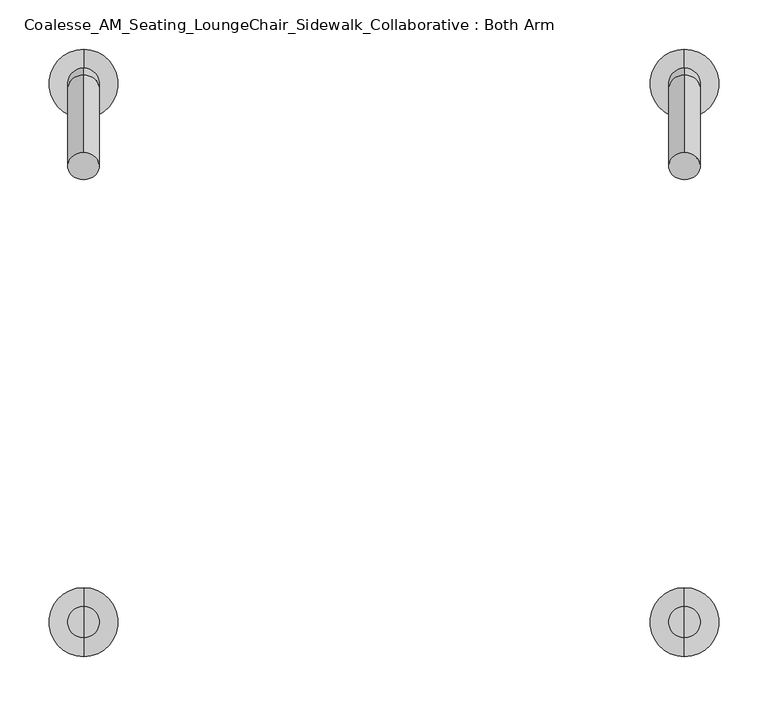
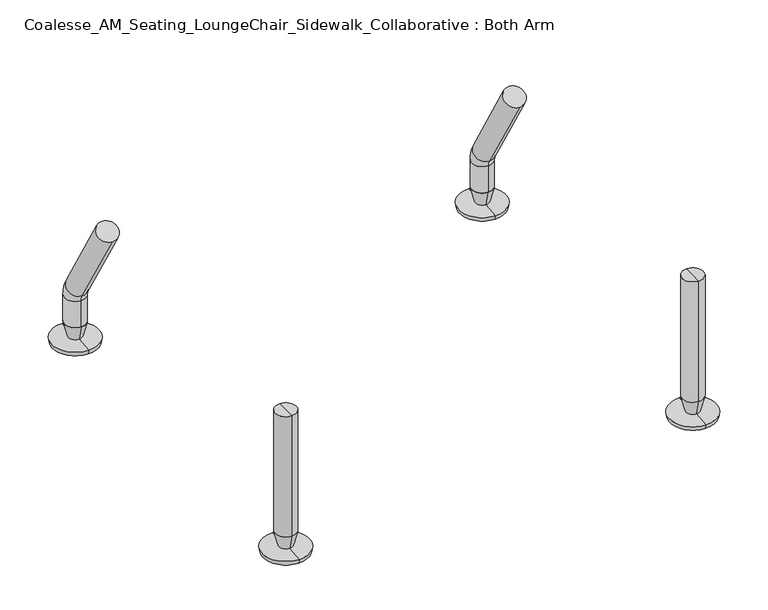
"""IFC4 building model written with IfcOpenShell, lengths in millimetres: furniture geometry, Coalesse_AM_Seating_LoungeChair_Sidewalk_Collaborative : Both Arm."""

from ifc_helpers import new_model, si_unit, point, frame, origin, place, context, project, spatial, polyline, circle_curve, ellipse_curve, trimmed, source, transform, mapped, element, save
from ifc_brep_helpers import plane_surface, cylinder_surface, revolved_surface, advanced_brep


def coalesse_am_seating_loungechair_sidewalk_collaborative_both_0cfa3d09(model_context):
    return source(origin(), model_context, "Body", "AdvancedBrep", [
        advanced_brep(
        [(770.5801534, 450.6597627, 0.0), (770.5801534, 484.5264293, 0.0), (770.5801534, 416.793096, 0.0), (770.5801534, 434.7847627, 31.75), (770.5801534, 466.5347627, 31.75), (770.5801534, 450.6597627, 31.75), (770.5801534, 440.7764092, 8.5001207), (770.5801534, 460.5431161, 8.5001207), (770.5801534, 415.7347627, 6.35), (770.5801534, 485.5847627, 6.35)],
        [
            (0, 1),
            (1, 2, circle_curve(frame((770.5801534, 450.6597627, 0.0), z_axis=(0.0, 0.0, -1.0), x_axis=(0.0, 1.0, 0.0)), 33.8666667)),
            (2, 0),
            (2, 1, circle_curve(frame((770.5801534, 450.6597627, 0.0), z_axis=(0.0, 0.0, -1.0), x_axis=(0.0, 1.0, 0.0)), 33.8666667)),
            (3, 4, circle_curve(frame((770.5801534, 450.6597627, 31.75), z_axis=(0.0, 0.0, 1.0), x_axis=(0.0, 1.0, 0.0)), 15.875)),
            (4, 5),
            (5, 3),
            (4, 3, circle_curve(frame((770.5801534, 450.6597627, 31.75), z_axis=(0.0, 0.0, 1.0), x_axis=(0.0, 1.0, 0.0)), 15.875)),
            (6, 7, circle_curve(frame((770.5801534, 450.6597627, 8.5001207), z_axis=(0.0, 0.0, 1.0), x_axis=(0.0, 1.0, 0.0)), 9.8833534)),
            (7, 4),
            (3, 6),
            (7, 6, circle_curve(frame((770.5801534, 450.6597627, 8.5001207), z_axis=(0.0, 0.0, 1.0), x_axis=(0.0, 1.0, 0.0)), 9.8833534)),
            (8, 9, circle_curve(frame((770.5801534, 450.6597627, 6.35), z_axis=(0.0, 0.0, 1.0), x_axis=(0.0, 1.0, 0.0)), 34.925)),
            (9, 7),
            (6, 8),
            (9, 8, circle_curve(frame((770.5801534, 450.6597627, 6.35), z_axis=(0.0, 0.0, 1.0), x_axis=(0.0, 1.0, 0.0)), 34.925)),
            (1, 9),
            (8, 2),
        ],
        [
            plane_surface(frame((770.5801534, 450.6597627, 0.0), z_axis=(0.0, 0.0, -1.0), x_axis=(0.0, 1.0, 0.0))),
            plane_surface(frame((770.5801534, 450.6597627, 31.75), z_axis=(0.0, 0.0, 1.0), x_axis=(0.0, 1.0, 0.0))),
            revolved_surface(polyline([(770.5801534, 466.5347627, 31.75), (770.5801534, 460.5431161, 8.5001207)]), (770.5801534, 450.6597627, -31.75), (0.0, 0.0, -1.0)),
            revolved_surface(polyline([(770.5801534, 460.5431161, 8.5001207), (770.5801534, 485.5847627, 6.35)]), (770.5801534, 450.6597627, -31.75), (0.0, 0.0, -1.0)),
            revolved_surface(polyline([(770.5801534, 485.5847627, 6.35), (770.5801534, 484.5264293, 0.0)]), (770.5801534, 450.6597627, -31.75), (0.0, 0.0, -1.0)),
        ],
        [
            (0, [[1, 2, 3]]),
            (0, [[-3, 4, -1]]),
            (1, [[5, 6, 7]]),
            (1, [[8, -7, -6]]),
            (2, [[9, 10, -5, 11]]),
            (2, [[12, -11, -8, -10]]),
            (3, [[13, 14, -9, 15]]),
            (3, [[16, -15, -12, -14]]),
            (4, [[-2, 17, -13, 18]]),
            (4, [[-4, -18, -16, -17]]),
        ],
    ),
        advanced_brep(
        [(770.5801534, 434.7847627, 31.75), (770.5801534, 466.5347627, 31.75), (770.5801534, 434.7847627, 73.4363994), (770.5801534, 466.5347627, 73.4363994), (770.5801534, 459.6905974, 98.4722611), (770.5801534, 432.3561879, 82.3200923), (770.5801534, 353.4225241, 215.8999916), (770.5801534, 380.7569336, 232.0521604)],
        [
            (0, 1, circle_curve(frame((770.5801534, 450.6597627, 31.75), z_axis=(0.0, 0.0, -1.0), x_axis=(0.0, 1.0, 0.0)), 15.875)),
            (1, 0, circle_curve(frame((770.5801534, 450.6597627, 31.75), z_axis=(0.0, 0.0, -1.0), x_axis=(0.0, 1.0, 0.0)), 15.875)),
            (0, 2),
            (2, 3, circle_curve(frame((770.5801534, 450.6597627, 73.4363994), z_axis=(0.0, 0.0, -1.0), x_axis=(0.0, 1.0, 0.0)), 15.875)),
            (3, 1),
            (3, 2, circle_curve(frame((770.5801534, 450.6597627, 73.4363994), z_axis=(0.0, 0.0, -1.0), x_axis=(0.0, 1.0, 0.0)), 15.875)),
            (4, 3, circle_curve(frame((770.5801534, 417.3222627, 73.4363994), z_axis=(-1.0, 0.0, 0.0), x_axis=(0.0, 1.0, 0.0)), 49.2125)),
            (2, 5, circle_curve(frame((770.5801534, 417.3222627, 73.4363994), z_axis=(1.0, 0.0, 0.0), x_axis=(0.0, 1.0, 0.0)), 17.4625)),
            (5, 4, circle_curve(frame((770.5801534, 446.0233926, 90.3961767), z_axis=(0.0, 0.5087297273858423, -0.8609262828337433), x_axis=(0.0, 0.8609262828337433, 0.5087297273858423)), 15.875)),
            (4, 5, circle_curve(frame((770.5801534, 446.0233926, 90.3961767), z_axis=(0.0, 0.508729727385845, -0.8609262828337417), x_axis=(0.0, 0.8609262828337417, 0.508729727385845)), 15.875)),
            (6, 7, circle_curve(frame((770.5801534, 367.0897288, 223.976076), z_axis=(0.0, -0.5087297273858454, 0.8609262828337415), x_axis=(0.0, 0.8609262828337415, 0.5087297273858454)), 15.875)),
            (7, 6, circle_curve(frame((770.5801534, 367.0897288, 223.976076), z_axis=(0.0, -0.5087297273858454, 0.8609262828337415), x_axis=(0.0, 0.8609262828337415, 0.5087297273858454)), 15.875)),
            (5, 6),
            (7, 4),
        ],
        [
            plane_surface(frame((770.5801534, 450.6597627, 31.75), z_axis=(0.0, 0.0, -1.0), x_axis=(-1.0, 0.0, 0.0))),
            cylinder_surface(frame((770.5801534, 450.6597627, 31.75), z_axis=(0.0, 0.0, -1.0), x_axis=(0.0, 1.0, 0.0)), 15.875),
            revolved_surface(trimmed(ellipse_curve(frame((770.5801534, 450.6597627, 73.4363994), z_axis=(0.0, 0.0, -1.0), x_axis=(0.0, 1.0, 0.0)), 15.875, 15.875), [point((770.5801534, 434.7847627, 73.4363994))], [point((770.5801534, 466.5347627, 73.4363994))], True, "CARTESIAN"), (770.5801534, 417.3222627, 73.4363994), (1.0, 0.0, 0.0)),
            revolved_surface(trimmed(ellipse_curve(frame((770.5801534, 450.6597627, 73.4363994), z_axis=(0.0, 0.0, -1.0), x_axis=(0.0, 1.0, 0.0)), 15.875, 15.875), [point((770.5801534, 466.5347627, 73.4363994))], [point((770.5801534, 434.7847627, 73.4363994))], True, "CARTESIAN"), (770.5801534, 417.3222627, 73.4363994), (1.0, 0.0, 0.0)),
            plane_surface(frame((770.5801534, 367.0897288, 223.976076), z_axis=(0.0, -0.5087297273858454, 0.8609262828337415), x_axis=(-1.0, 0.0, 0.0))),
            cylinder_surface(frame((770.5801534, 446.0233926, 90.3961767), z_axis=(0.0, 0.5087297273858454, -0.8609262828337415), x_axis=(0.0, 0.8609262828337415, 0.5087297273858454)), 15.875),
        ],
        [
            (0, [[1, 2]]),
            (1, [[-1, 3, 4, 5]]),
            (1, [[-2, -5, 6, -3]]),
            (2, [[7, -4, 8, 9]]),
            (3, [[-8, -6, -7, 10]]),
            (4, [[11, 12]]),
            (5, [[-9, 13, -12, 14]]),
            (5, [[-10, -14, -11, -13]]),
        ],
    ),
        advanced_brep(
        [(161.0378055, 415.7347627, 6.35), (161.0378055, 485.5847627, 6.35), (161.0378055, 484.5264293, 0.0), (161.0378055, 416.793096, 0.0), (161.0378055, 440.7764092, 8.5001207), (161.0378055, 460.5431161, 8.5001207), (161.0378055, 434.7847627, 31.75), (161.0378055, 466.5347627, 31.75), (161.0378055, 450.6597627, 31.75), (161.0378055, 450.6597627, 0.0)],
        [
            (0, 1, circle_curve(frame((161.0378055, 450.6597627, 6.35), z_axis=(0.0, 0.0, -1.0), x_axis=(0.0, 1.0, 0.0)), 34.925)),
            (1, 2),
            (2, 3, circle_curve(frame((161.0378055, 450.6597627, 0.0), z_axis=(0.0, 0.0, 1.0), x_axis=(0.0, 1.0, 0.0)), 33.8666667)),
            (3, 0),
            (1, 0, circle_curve(frame((161.0378055, 450.6597627, 6.35), z_axis=(0.0, 0.0, -1.0), x_axis=(0.0, 1.0, 0.0)), 34.925)),
            (3, 2, circle_curve(frame((161.0378055, 450.6597627, 0.0), z_axis=(0.0, 0.0, 1.0), x_axis=(0.0, 1.0, 0.0)), 33.8666667)),
            (4, 5, circle_curve(frame((161.0378055, 450.6597627, 8.5001207), z_axis=(0.0, 0.0, -1.0), x_axis=(0.0, 1.0, 0.0)), 9.8833534)),
            (5, 1),
            (0, 4),
            (5, 4, circle_curve(frame((161.0378055, 450.6597627, 8.5001207), z_axis=(0.0, 0.0, -1.0), x_axis=(0.0, 1.0, 0.0)), 9.8833534)),
            (6, 7, circle_curve(frame((161.0378055, 450.6597627, 31.75), z_axis=(0.0, 0.0, -1.0), x_axis=(0.0, 1.0, 0.0)), 15.875)),
            (7, 5),
            (4, 6),
            (7, 6, circle_curve(frame((161.0378055, 450.6597627, 31.75), z_axis=(0.0, 0.0, -1.0), x_axis=(0.0, 1.0, 0.0)), 15.875)),
            (8, 7),
            (6, 8),
            (2, 9),
            (9, 3),
        ],
        [
            revolved_surface(polyline([(161.0378055, 484.5264293, 0.0), (161.0378055, 485.5847627, 6.35)]), (161.0378055, 450.6597627, -31.75), (0.0, 0.0, 1.0)),
            revolved_surface(polyline([(161.0378055, 485.5847627, 6.35), (161.0378055, 460.5431161, 8.5001207)]), (161.0378055, 450.6597627, -31.75), (0.0, 0.0, 1.0)),
            revolved_surface(polyline([(161.0378055, 460.5431161, 8.5001207), (161.0378055, 466.5347627, 31.75)]), (161.0378055, 450.6597627, -31.75), (0.0, 0.0, 1.0)),
            plane_surface(frame((161.0378055, 450.6597627, 31.75), z_axis=(0.0, 0.0, 1.0), x_axis=(0.0, 1.0, 0.0))),
            plane_surface(frame((161.0378055, 450.6597627, 0.0), z_axis=(0.0, 0.0, -1.0), x_axis=(0.0, 1.0, 0.0))),
        ],
        [
            (0, [[1, 2, 3, 4]]),
            (0, [[5, -4, 6, -2]]),
            (1, [[7, 8, -1, 9]]),
            (1, [[10, -9, -5, -8]]),
            (2, [[11, 12, -7, 13]]),
            (2, [[14, -13, -10, -12]]),
            (3, [[15, -11, 16]]),
            (3, [[-16, -14, -15]]),
            (4, [[-3, 17, 18]]),
            (4, [[-6, -18, -17]]),
        ],
    ),
        advanced_brep(
        [(161.0378055, 466.5347627, 31.75), (161.0378055, 434.7847627, 31.75), (161.0378055, 466.5347627, 73.4363994), (161.0378055, 434.7847627, 73.4363994), (161.0378055, 432.3561879, 82.3200923), (161.0378055, 459.6905974, 98.4722611), (161.0378055, 380.7569336, 232.0521604), (161.0378055, 353.4225241, 215.8999916)],
        [
            (0, 1, circle_curve(frame((161.0378055, 450.6597627, 31.75), z_axis=(0.0, 0.0, -1.0), x_axis=(0.0, -1.0, 0.0)), 15.875)),
            (1, 0, circle_curve(frame((161.0378055, 450.6597627, 31.75), z_axis=(0.0, 0.0, -1.0), x_axis=(0.0, -1.0, 0.0)), 15.875)),
            (0, 2),
            (2, 3, circle_curve(frame((161.0378055, 450.6597627, 73.4363994), z_axis=(0.0, 0.0, -1.0), x_axis=(0.0, -1.0, 0.0)), 15.875)),
            (3, 1),
            (3, 2, circle_curve(frame((161.0378055, 450.6597627, 73.4363994), z_axis=(0.0, 0.0, -1.0), x_axis=(0.0, -1.0, 0.0)), 15.875)),
            (4, 3, circle_curve(frame((161.0378055, 417.3222627, 73.4363994), z_axis=(-1.0, 0.0, 0.0), x_axis=(0.0, 1.0, 0.0)), 17.4625)),
            (2, 5, circle_curve(frame((161.0378055, 417.3222627, 73.4363994), z_axis=(1.0, 0.0, 0.0), x_axis=(0.0, 1.0, 0.0)), 49.2125)),
            (5, 4, circle_curve(frame((161.0378055, 446.0233926, 90.3961767), z_axis=(0.0, 0.5087297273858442, -0.8609262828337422), x_axis=(0.0, -0.8609262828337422, -0.5087297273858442)), 15.875)),
            (4, 5, circle_curve(frame((161.0378055, 446.0233926, 90.3961767), z_axis=(0.0, 0.5087297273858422, -0.8609262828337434), x_axis=(0.0, -0.8609262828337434, -0.5087297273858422)), 15.875)),
            (6, 7, circle_curve(frame((161.0378055, 367.0897288, 223.976076), z_axis=(0.0, -0.5087297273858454, 0.8609262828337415), x_axis=(0.0, -0.8609262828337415, -0.5087297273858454)), 15.875)),
            (7, 6, circle_curve(frame((161.0378055, 367.0897288, 223.976076), z_axis=(0.0, -0.5087297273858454, 0.8609262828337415), x_axis=(0.0, -0.8609262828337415, -0.5087297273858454)), 15.875)),
            (5, 6),
            (7, 4),
        ],
        [
            plane_surface(frame((161.0378055, 450.6597627, 31.75), z_axis=(0.0, 0.0, -1.0), x_axis=(1.0, 0.0, 0.0))),
            cylinder_surface(frame((161.0378055, 450.6597627, 31.75), z_axis=(0.0, 0.0, -1.0), x_axis=(0.0, -1.0, 0.0)), 15.875),
            revolved_surface(trimmed(ellipse_curve(frame((161.0378055, 450.6597627, 73.4363994), z_axis=(0.0, 0.0, -1.0), x_axis=(0.0, -1.0, 0.0)), 15.875, 15.875), [point((161.0378055, 466.5347627, 73.4363994))], [point((161.0378055, 434.7847627, 73.4363994))], True, "CARTESIAN"), (161.0378055, 417.3222627, 73.4363994), (1.0, 0.0, 0.0)),
            revolved_surface(trimmed(ellipse_curve(frame((161.0378055, 450.6597627, 73.4363994), z_axis=(0.0, 0.0, -1.0), x_axis=(0.0, -1.0, 0.0)), 15.875, 15.875), [point((161.0378055, 434.7847627, 73.4363994))], [point((161.0378055, 466.5347627, 73.4363994))], True, "CARTESIAN"), (161.0378055, 417.3222627, 73.4363994), (1.0, 0.0, 0.0)),
            plane_surface(frame((161.0378055, 367.0897288, 223.976076), z_axis=(0.0, -0.5087297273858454, 0.8609262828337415), x_axis=(1.0, 0.0, 0.0))),
            cylinder_surface(frame((161.0378055, 446.0233926, 90.3961767), z_axis=(0.0, 0.5087297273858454, -0.8609262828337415), x_axis=(0.0, -0.8609262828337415, -0.5087297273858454)), 15.875),
        ],
        [
            (0, [[1, 2]]),
            (1, [[-1, 3, 4, 5]]),
            (1, [[-2, -5, 6, -3]]),
            (2, [[7, -4, 8, 9]]),
            (3, [[-8, -6, -7, 10]]),
            (4, [[11, 12]]),
            (5, [[-9, 13, -12, 14]]),
            (5, [[-10, -14, -11, -13]]),
        ],
    ),
        advanced_brep(
        [(770.5801534, -111.3152373, 31.75), (770.5801534, -79.5652373, 31.75), (770.5801534, -79.5652373, 222.25), (770.5801534, -111.3152373, 222.25), (770.5801534, -105.3235908, 8.5001207), (770.5801534, -85.5568839, 8.5001207), (770.5801534, -130.3652373, 6.35), (770.5801534, -60.5152373, 6.35), (770.5801534, -129.306904, 0.0), (770.5801534, -61.5735707, 0.0), (770.5801534, -95.4402373, 0.0), (770.5801534, -95.4402373, 222.25)],
        [
            (0, 1, circle_curve(frame((770.5801534, -95.4402373, 31.75), z_axis=(0.0, 0.0, 1.0), x_axis=(0.0, 1.0, 0.0)), 15.875)),
            (1, 2),
            (2, 3, circle_curve(frame((770.5801534, -95.4402373, 222.25), z_axis=(0.0, 0.0, -1.0), x_axis=(0.0, 1.0, 0.0)), 15.875)),
            (3, 0),
            (1, 0, circle_curve(frame((770.5801534, -95.4402373, 31.75), z_axis=(0.0, 0.0, 1.0), x_axis=(0.0, 1.0, 0.0)), 15.875)),
            (3, 2, circle_curve(frame((770.5801534, -95.4402373, 222.25), z_axis=(0.0, 0.0, -1.0), x_axis=(0.0, 1.0, 0.0)), 15.875)),
            (4, 5, circle_curve(frame((770.5801534, -95.4402373, 8.5001207), z_axis=(0.0, 0.0, 1.0), x_axis=(0.0, 1.0, 0.0)), 9.8833534)),
            (5, 1),
            (0, 4),
            (5, 4, circle_curve(frame((770.5801534, -95.4402373, 8.5001207), z_axis=(0.0, 0.0, 1.0), x_axis=(0.0, 1.0, 0.0)), 9.8833534)),
            (6, 7, circle_curve(frame((770.5801534, -95.4402373, 6.35), z_axis=(0.0, 0.0, 1.0), x_axis=(0.0, 1.0, 0.0)), 34.925)),
            (7, 5),
            (4, 6),
            (7, 6, circle_curve(frame((770.5801534, -95.4402373, 6.35), z_axis=(0.0, 0.0, 1.0), x_axis=(0.0, 1.0, 0.0)), 34.925)),
            (8, 9, circle_curve(frame((770.5801534, -95.4402373, 0.0), z_axis=(0.0, 0.0, 1.0), x_axis=(0.0, 1.0, 0.0)), 33.8666667)),
            (9, 7),
            (6, 8),
            (9, 8, circle_curve(frame((770.5801534, -95.4402373, 0.0), z_axis=(0.0, 0.0, 1.0), x_axis=(0.0, 1.0, 0.0)), 33.8666667)),
            (10, 9),
            (8, 10),
            (2, 11),
            (11, 3),
        ],
        [
            cylinder_surface(frame((770.5801534, -95.4402373, -95.25), z_axis=(0.0, 0.0, -1.0), x_axis=(0.0, 1.0, 0.0)), 15.875),
            revolved_surface(polyline([(770.5801534, -79.5652373, 31.75), (770.5801534, -85.5568839, 8.5001207)]), (770.5801534, -95.4402373, -95.25), (0.0, 0.0, -1.0)),
            revolved_surface(polyline([(770.5801534, -85.5568839, 8.5001207), (770.5801534, -60.5152373, 6.35)]), (770.5801534, -95.4402373, -95.25), (0.0, 0.0, -1.0)),
            revolved_surface(polyline([(770.5801534, -60.5152373, 6.35), (770.5801534, -61.5735707, 0.0)]), (770.5801534, -95.4402373, -95.25), (0.0, 0.0, -1.0)),
            plane_surface(frame((770.5801534, -95.4402373, 0.0), z_axis=(0.0, 0.0, -1.0), x_axis=(0.0, 1.0, 0.0))),
            plane_surface(frame((770.5801534, -95.4402373, 222.25), z_axis=(0.0, 0.0, 1.0), x_axis=(0.0, 1.0, 0.0))),
        ],
        [
            (0, [[1, 2, 3, 4]]),
            (0, [[5, -4, 6, -2]]),
            (1, [[7, 8, -1, 9]]),
            (1, [[10, -9, -5, -8]]),
            (2, [[11, 12, -7, 13]]),
            (2, [[14, -13, -10, -12]]),
            (3, [[15, 16, -11, 17]]),
            (3, [[18, -17, -14, -16]]),
            (4, [[19, -15, 20]]),
            (4, [[-20, -18, -19]]),
            (5, [[-3, 21, 22]]),
            (5, [[-6, -22, -21]]),
        ],
    ),
        advanced_brep(
        [(161.0378055, -95.4402373, 222.25), (161.0378055, -79.5652373, 222.25), (161.0378055, -111.3152373, 222.25), (161.0378055, -129.306904, 0.0), (161.0378055, -61.5735707, 0.0), (161.0378055, -95.4402373, 0.0), (161.0378055, -130.3652373, 6.35), (161.0378055, -60.5152373, 6.35), (161.0378055, -105.3235908, 8.5001207), (161.0378055, -85.5568839, 8.5001207), (161.0378055, -111.3152373, 31.75), (161.0378055, -79.5652373, 31.75)],
        [
            (0, 1),
            (1, 2, circle_curve(frame((161.0378055, -95.4402373, 222.25), z_axis=(0.0, 0.0, 1.0), x_axis=(0.0, 1.0, 0.0)), 15.875)),
            (2, 0),
            (2, 1, circle_curve(frame((161.0378055, -95.4402373, 222.25), z_axis=(0.0, 0.0, 1.0), x_axis=(0.0, 1.0, 0.0)), 15.875)),
            (3, 4, circle_curve(frame((161.0378055, -95.4402373, 0.0), z_axis=(0.0, 0.0, -1.0), x_axis=(0.0, 1.0, 0.0)), 33.8666667)),
            (4, 5),
            (5, 3),
            (4, 3, circle_curve(frame((161.0378055, -95.4402373, 0.0), z_axis=(0.0, 0.0, -1.0), x_axis=(0.0, 1.0, 0.0)), 33.8666667)),
            (6, 7, circle_curve(frame((161.0378055, -95.4402373, 6.35), z_axis=(0.0, 0.0, -1.0), x_axis=(0.0, 1.0, 0.0)), 34.925)),
            (7, 4),
            (3, 6),
            (7, 6, circle_curve(frame((161.0378055, -95.4402373, 6.35), z_axis=(0.0, 0.0, -1.0), x_axis=(0.0, 1.0, 0.0)), 34.925)),
            (8, 9, circle_curve(frame((161.0378055, -95.4402373, 8.5001207), z_axis=(0.0, 0.0, -1.0), x_axis=(0.0, 1.0, 0.0)), 9.8833534)),
            (9, 7),
            (6, 8),
            (9, 8, circle_curve(frame((161.0378055, -95.4402373, 8.5001207), z_axis=(0.0, 0.0, -1.0), x_axis=(0.0, 1.0, 0.0)), 9.8833534)),
            (10, 11, circle_curve(frame((161.0378055, -95.4402373, 31.75), z_axis=(0.0, 0.0, -1.0), x_axis=(0.0, 1.0, 0.0)), 15.875)),
            (11, 9),
            (8, 10),
            (11, 10, circle_curve(frame((161.0378055, -95.4402373, 31.75), z_axis=(0.0, 0.0, -1.0), x_axis=(0.0, 1.0, 0.0)), 15.875)),
            (1, 11),
            (10, 2),
        ],
        [
            plane_surface(frame((161.0378055, -95.4402373, 222.25), z_axis=(0.0, 0.0, 1.0), x_axis=(0.0, 1.0, 0.0))),
            plane_surface(frame((161.0378055, -95.4402373, 0.0), z_axis=(0.0, 0.0, -1.0), x_axis=(0.0, 1.0, 0.0))),
            revolved_surface(polyline([(161.0378055, -61.5735707, 0.0), (161.0378055, -60.5152373, 6.35)]), (161.0378055, -95.4402373, -95.25), (0.0, 0.0, 1.0)),
            revolved_surface(polyline([(161.0378055, -60.5152373, 6.35), (161.0378055, -85.5568839, 8.5001207)]), (161.0378055, -95.4402373, -95.25), (0.0, 0.0, 1.0)),
            revolved_surface(polyline([(161.0378055, -85.5568839, 8.5001207), (161.0378055, -79.5652373, 31.75)]), (161.0378055, -95.4402373, -95.25), (0.0, 0.0, 1.0)),
            cylinder_surface(frame((161.0378055, -95.4402373, -95.25), z_axis=(0.0, 0.0, 1.0), x_axis=(0.0, 1.0, 0.0)), 15.875),
        ],
        [
            (0, [[1, 2, 3]]),
            (0, [[-3, 4, -1]]),
            (1, [[5, 6, 7]]),
            (1, [[8, -7, -6]]),
            (2, [[9, 10, -5, 11]]),
            (2, [[12, -11, -8, -10]]),
            (3, [[13, 14, -9, 15]]),
            (3, [[16, -15, -12, -14]]),
            (4, [[17, 18, -13, 19]]),
            (4, [[20, -19, -16, -18]]),
            (5, [[-2, 21, -17, 22]]),
            (5, [[-4, -22, -20, -21]]),
        ],
    ),
    ])


if __name__ == "__main__":
    model = new_model("IFC4")
    model_context = context("Model", 3, world=origin())
    ifc_project = project(units=[si_unit("LENGTHUNIT", "METRE", prefix="MILLI")], contexts=[model_context])
    site = spatial("IfcSite", under=ifc_project)
    building = spatial("IfcBuilding", under=site)
    placement = place(None, origin())
    coalesse_am_seating_loungechair_sidewalk_collaborative_both_shape = coalesse_am_seating_loungechair_sidewalk_collaborative_both_0cfa3d09(model_context)
    element("IfcFurniture", 1, ObjectType="Coalesse_AM_Seating_LoungeChair_Sidewalk_Collaborative : Both Arm", at=placement, inside=building, context=model_context, shape_type="MappedRepresentation", body=[
        mapped(coalesse_am_seating_loungechair_sidewalk_collaborative_both_shape, transform((0.0, 0.0, 0.0), x_axis=(1.0, 0.0, 0.0), y_axis=(0.0, 1.0, 0.0), z_axis=(0.0, 0.0, 1.0))),
    ])
    save(model, "model.ifc")
